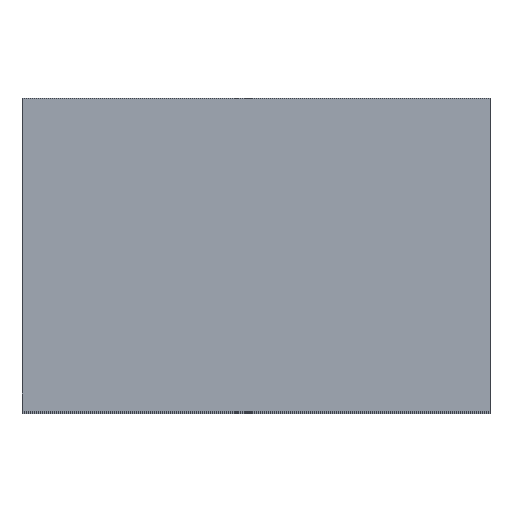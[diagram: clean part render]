
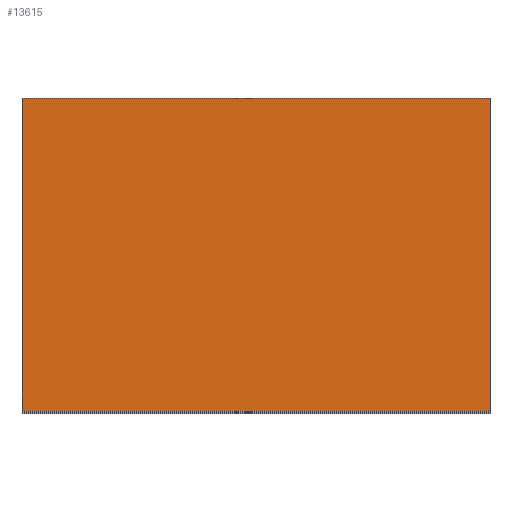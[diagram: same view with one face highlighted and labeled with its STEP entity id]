
A CAD part, top view. The second image highlights one B-rep face of the part: STEP entity #13615.
In plain terms, the highlighted planar face has unit normal (0, 0, 1).
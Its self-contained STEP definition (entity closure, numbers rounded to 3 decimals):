
#2802=DIRECTION('',(-1.,0.,0.));
#2803=VECTOR('',#2802,19.);
#2804=CARTESIAN_POINT('',(-22.25,12.7,0.));
#2805=LINE('',#2804,#2803);
#2856=DIRECTION('',(0.,1.,0.));
#2857=VECTOR('',#2856,12.7);
#2858=CARTESIAN_POINT('',(-22.25,0.,0.));
#2859=LINE('',#2858,#2857);
#2860=DIRECTION('',(-1.,0.,0.));
#2861=VECTOR('',#2860,19.);
#2862=CARTESIAN_POINT('',(-22.25,0.,0.));
#2863=LINE('',#2862,#2861);
#2864=DIRECTION('',(0.,1.,0.));
#2865=VECTOR('',#2864,12.7);
#2866=CARTESIAN_POINT('',(-41.25,0.,0.));
#2867=LINE('',#2866,#2865);
#7890=CARTESIAN_POINT('',(-22.25,0.,0.));
#7891=VERTEX_POINT('',#7890);
#7892=CARTESIAN_POINT('',(-41.25,0.,0.));
#7893=VERTEX_POINT('',#7892);
#7894=CARTESIAN_POINT('',(-22.25,12.7,0.));
#7895=VERTEX_POINT('',#7894);
#7896=CARTESIAN_POINT('',(-41.25,12.7,0.));
#7897=VERTEX_POINT('',#7896);
#13603=CARTESIAN_POINT('',(-63.5,0.,0.));
#13604=DIRECTION('',(0.,0.,1.));
#13605=DIRECTION('',(1.,0.,0.));
#13606=AXIS2_PLACEMENT_3D('',#13603,#13604,#13605);
#13607=PLANE('',#13606);
#13608=ORIENTED_EDGE('',*,*,#13490,.F.);
#13610=ORIENTED_EDGE('',*,*,#13609,.T.);
#13611=ORIENTED_EDGE('',*,*,#13529,.T.);
#13612=ORIENTED_EDGE('',*,*,#13570,.F.);
#13613=EDGE_LOOP('',(#13608,#13610,#13611,#13612));
#13614=FACE_OUTER_BOUND('',#13613,.F.);
#13615=ADVANCED_FACE('',(#13614),#13607,.T.);
#13490=EDGE_CURVE('',#7891,#7895,#2859,.T.);
#13529=EDGE_CURVE('',#7893,#7897,#2867,.T.);
#13570=EDGE_CURVE('',#7895,#7897,#2805,.T.);
#13609=EDGE_CURVE('',#7891,#7893,#2863,.T.);
